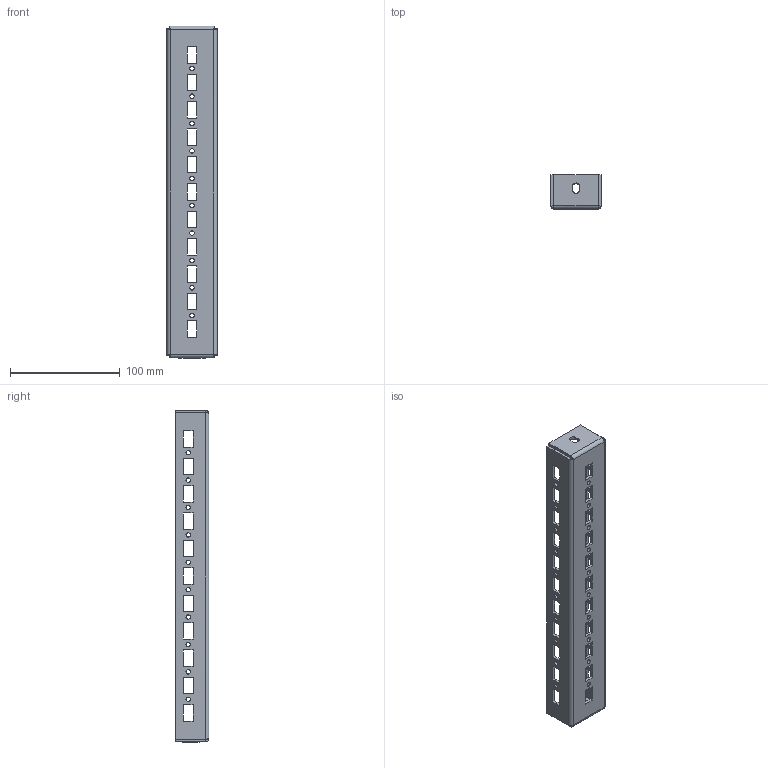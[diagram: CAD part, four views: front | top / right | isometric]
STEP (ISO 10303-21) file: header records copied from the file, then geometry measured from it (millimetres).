
FILE_DESCRIPTION (( 'STEP AP214' ), '1' );
FILE_NAME ('ÏðîôèëüÌîíòàæíûé45õ400(259157).STEP', '2018-07-10T09:24:00', ( '' ), ( '' ), 'SwSTEP 2.0', 'SolidWorks 2018', '' );
FILE_SCHEMA (( 'AUTOMOTIVE_DESIGN' ));
Length unit declared in the file: millimetre
Products named in the file (1): ÏðîôèëüÌîíòàæíûé45õ400(259157)
Bounding box: 46 x 31 x 303 mm (x, y, z)
Volume: 69230.7 mm3; surface area: 62735.1 mm2
Topology: 1 solids, 1 shells, 238 faces, 676 edges, 440 vertices
Faces by surface type: plane 158, cylinder 72, bspline 8
Entity records: 8284 total; most frequent: CARTESIAN_POINT 1773, ORIENTED_EDGE 1352, DIRECTION 1238, EDGE_CURVE 676, LINE 520, VECTOR 520, VERTEX_POINT 440, EDGE_LOOP 368
